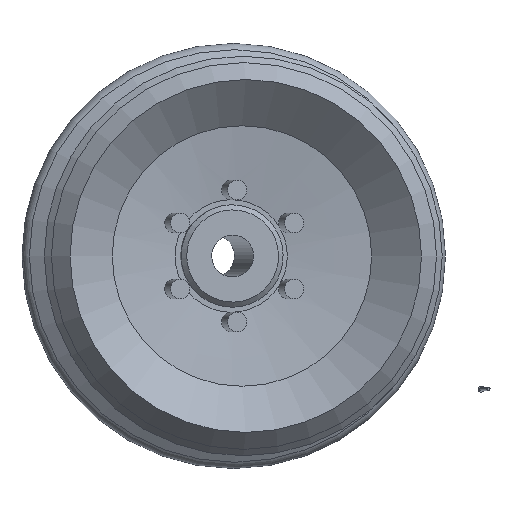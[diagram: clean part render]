
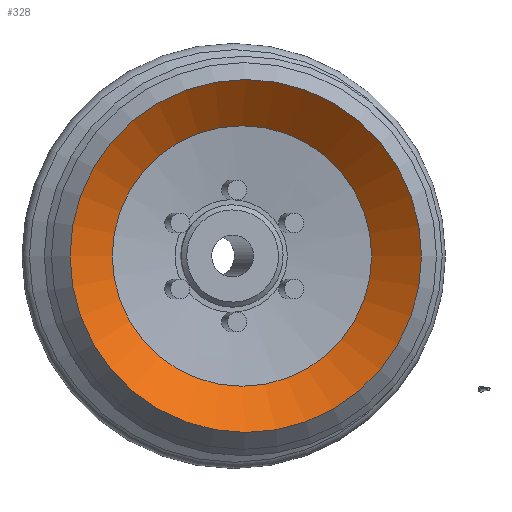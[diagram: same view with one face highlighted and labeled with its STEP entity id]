
A CAD part, front view. The second image highlights one B-rep face of the part: STEP entity #328.
In plain terms, the highlighted conical face has half-angle 48.737 degrees and reference radius 25.429 mm.
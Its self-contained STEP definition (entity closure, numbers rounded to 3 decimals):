
#328=ADVANCED_FACE('',(#619,#620),#621,.F.);
#619=FACE_OUTER_BOUND('',#877,.T.);
#620=FACE_BOUND('',#878,.T.);
#621=CONICAL_SURFACE('',#879,25.429,0.851);
#877=EDGE_LOOP('',(#1337));
#878=EDGE_LOOP('',(#1338));
#879=AXIS2_PLACEMENT_3D('',#1339,#1340,#1341);
#1337=ORIENTED_EDGE('',*,*,#1518,.T.);
#1338=ORIENTED_EDGE('',*,*,#1520,.F.);
#1339=CARTESIAN_POINT('',(0.,-42.644,0.));
#1340=DIRECTION('',(0.,-1.0,0.));
#1341=DIRECTION('',(0.0,0.,-1.0));
#1518=EDGE_CURVE('',#1761,#1761,#1762,.T.);
#1520=EDGE_CURVE('',#1764,#1764,#1765,.T.);
#1761=VERTEX_POINT('',#2583);
#1762=CIRCLE('',#2584,34.449);
#1764=VERTEX_POINT('',#2586);
#1765=CIRCLE('',#2587,25.429);
#2583=CARTESIAN_POINT('',(0.,-50.558,-34.449));
#2584=AXIS2_PLACEMENT_3D('',#2766,#2767,#2768);
#2586=CARTESIAN_POINT('',(0.,-42.644,-25.429));
#2587=AXIS2_PLACEMENT_3D('',#2769,#2770,#2771);
#2766=CARTESIAN_POINT('',(0.,-50.558,0.));
#2767=DIRECTION('',(0.,-1.0,0.));
#2768=DIRECTION('',(0.0,0.,-1.0));
#2769=CARTESIAN_POINT('',(0.,-42.644,0.));
#2770=DIRECTION('',(0.,-1.0,0.));
#2771=DIRECTION('',(0.0,0.,-1.0));
